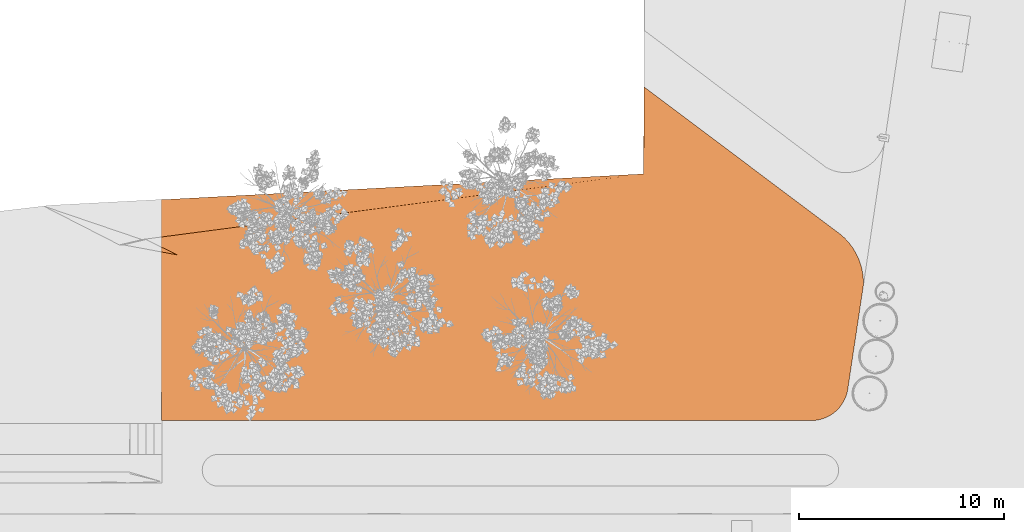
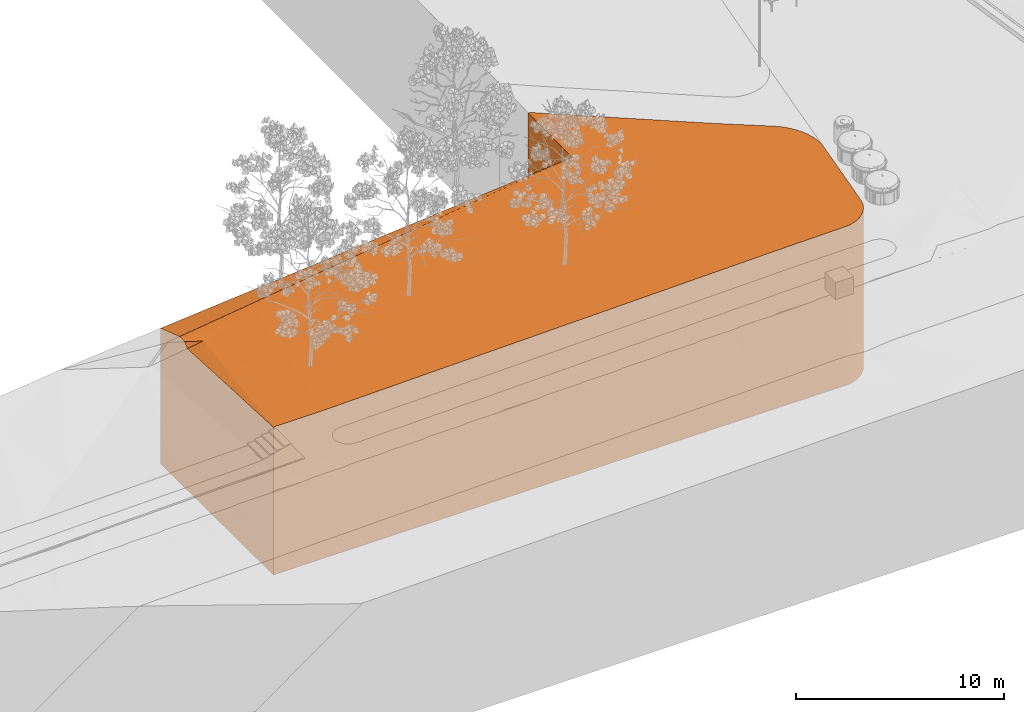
# One storey, part 211 of 246: 1 proxy.
"""IFC2X3 building model written with IfcOpenShell, lengths in millimetres."""

from ifc_helpers import new_model, entity, si_unit, converted_unit, derived_unit, money_unit, direction, frame, origin_with_axes, place, context, subcontext, project, spatial, faceted_brep, material, type_object, element, save


model = new_model("IFC2X3")

# Units and contexts
model_context = context("Model", 3, precision=0.01, world=origin_with_axes(), true_north=direction((0.0, 1.0)))
body_context = subcontext(model_context, "Body", "Model", "MODEL_VIEW")
ifc_project = project(units=[si_unit("LENGTHUNIT", "METRE", prefix="MILLI"), si_unit("AREAUNIT", "SQUARE_METRE"), si_unit("VOLUMEUNIT", "CUBIC_METRE"), converted_unit("PLANEANGLEUNIT", "DEGREE", entity("IfcPlaneAngleMeasure", 0.0174532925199), si_unit("PLANEANGLEUNIT", "RADIAN"), dimensions=[0, 0, 0, 0, 0, 0, 0]), si_unit("SOLIDANGLEUNIT", "STERADIAN"), money_unit("EUR"), converted_unit("TIMEUNIT", "Year", entity("IfcTimeMeasure", 31556926.0), si_unit("TIMEUNIT", "SECOND"), dimensions=[0, 0, 1, 0, 0, 0, 0]), si_unit("MASSUNIT", "GRAM", prefix="KILO"), si_unit("THERMODYNAMICTEMPERATUREUNIT", "DEGREE_CELSIUS"), si_unit("LUMINOUSINTENSITYUNIT", "LUMEN"), si_unit("ENERGYUNIT", "JOULE", prefix="MEGA"), derived_unit("THERMALCONDUCTANCEUNIT", [(si_unit("POWERUNIT", "WATT"), 1), (si_unit("LENGTHUNIT", "METRE"), -1), (si_unit("THERMODYNAMICTEMPERATUREUNIT", "KELVIN"), -1)]), derived_unit("SPECIFICHEATCAPACITYUNIT", [(si_unit("ENERGYUNIT", "JOULE"), 1), (si_unit("MASSUNIT", "GRAM", prefix="KILO"), -1), (si_unit("THERMODYNAMICTEMPERATUREUNIT", "KELVIN"), -1)]), derived_unit("MASSDENSITYUNIT", [(si_unit("MASSUNIT", "GRAM", prefix="KILO"), 1), (si_unit("VOLUMEUNIT", "CUBIC_METRE"), -1)])], contexts=[model_context])

# Site, building, storey
site_placement = place(None, origin_with_axes())
site = spatial("IfcSite", under=ifc_project, at=site_placement, Name="L.Koidula tn 11b", CompositionType="ELEMENT")
building_placement = place(site_placement, origin_with_axes())
building = spatial("IfcBuilding", under=site, at=building_placement, Name="Rakvere Riigigümnaasium", CompositionType="ELEMENT")
storey_placement = place(building_placement, origin_with_axes())
storey = spatial("IfcBuildingStorey", under=building, at=storey_placement, Name="1.korrus 0,00", CompositionType="ELEMENT", Elevation=0.0)

# Proxy
ifc_material = material(Name="Roheala")
building_element_proxy_type = type_object("IfcBuildingElementProxyType", Name="Roheala", PredefinedType="NOTDEFINED")
proxy_placement = place(storey_placement, frame((-27883.9800417, 5888.03187141, -10000.0), z_axis=(0.0, 0.0, 1.0), x_axis=(1.0, 0.0, 0.0)))
element("IfcBuildingElementProxy", 1, at=proxy_placement, inside=storey, type_object=building_element_proxy_type, material=ifc_material, Name="Roheala", context=body_context, shape_type="Brep", body=[
    faceted_brep([(34332.925298, 6864.29597413, 9300.39518964), (34335.2758112, 6739.08579392, 9302.70499763), (34336.236999, 6687.88399578, 9303.5502605), (34336.236999, 6687.88399578, 0.0), (34332.925298, 6864.29597413, 0.0), (34330.616608, 6894.65899928, 9299.79440302), (26982.5979275, 0.352399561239, 9252.08709945), (27232.6556542, 0.355669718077, 9257.93563239), (33863.0693961, 3499.51411071, 9350.0), (34332.854574, 6599.72733087, 9304.94713644), (33867.2854808, 3502.51735499, 9350.0), (34332.854574, 6599.72733087, 0.0), (35.574313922, 708.259423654, 0.0), (0.0, 10785.9368653, 0.0), (23598.9628378, 12050.3574597, 0.0), (23611.4911194, 16307.907403, 0.0), (33229.8101634, 9085.62633719, 0.0), (33292.8658351, 9033.03547806, 0.0), (33421.6845244, 8912.46226893, 0.0), (33543.4097426, 8784.73159639, 0.0), (33657.6444475, 8650.26009134, 0.0), (33764.0160291, 8509.48637187, 0.0), (33862.1775255, 8362.86961261, 0.0), (33951.8087543, 8210.88804695, 0.0), (34032.6173569, 8054.03740715, 0.0), (34104.3397527, 7892.82930742, 0.0), (34166.7419979, 7727.78957506, 0.0), (34219.6205495, 7559.45653537, 0.0), (34262.8029286, 7388.37925575, 0.0), (34296.1482833, 7215.11575472, 0.0), (34319.5478479, 7040.2311818, 0.0), (33572.1766925, 1539.29879872, 0.0), (33559.3621258, 1457.66829806, 0.0), (33528.3939652, 1326.16155004, 0.0), (33487.6848863, 1197.3367751, 0.0), (33437.4625508, 1071.91441363, 0.0), (33378.0078222, 950.595878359, 0.0), (33309.6531957, 834.059631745, 0.0), (33232.7809379, 722.957391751, 0.0), (33147.8209498, 617.91048717, 0.0), (33055.248362, 519.506382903, 0.0), (32955.5808781, 428.295394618, 0.0), (32849.3758789, 344.78761116, 0.0), (32737.227306, 269.450041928, 0.0), (32619.7623396, 202.704005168, 0.0), (32497.6378916, 144.922771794, 0.0), (32371.5369313, 96.4294779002, 0.0), (32242.1646664, 57.4953176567, 0.0), (32110.2445992, 28.3380266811, 0.0), (31976.5144802, 9.12066437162, 0.0), (31841.7221825, -0.0492979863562, 0.0), (31774.1718508, 0.415061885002, 0.0), (35.8068283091, 0.0, 0.0), (34319.5478479, 7040.2311818, 9297.03859377), (34327.0827913, 6941.13443131, 9298.95346894), (23598.962838, 12050.3574615, 8980.0), (26586.3633027, 0.347217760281, 9243.40702629), (77.1900470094, 0.000541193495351, 8693.1310645), (35.8068283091, 0.0, 8681.23902695), (31774.1718508, 0.415061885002, 9338.04511527), (29704.2685827, 0.387992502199, 9303.96773818), (24473.0754986, 0.319581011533, 9194.62747145), (24302.8834542, 0.317355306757, 9192.85571935), (18015.3803882, 0.235129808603, 9047.7262207), (18008.8838724, 0.235044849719, 9047.72622134), (11721.4902706, 0.152820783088, 8902.59928886), (11246.313563, 0.146606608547, 8893.45244506), (4971.70962512, 0.0645498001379, 8748.62120504), (4964.81566064, 0.0644596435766, 8748.62120545), (2873.30655149, 0.037107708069, 8700.34472883), (2767.83741654, 0.0357284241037, 8695.32610974), (87.7576559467, 0.000679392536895, 8693.13106239), (33866.6792933, 3498.48467771, 9350.05866043), (33862.0163708, 3467.46446963, 9350.45939971), (33572.1766925, 1539.29879872, 9368.99377147), (33866.1916894, 3495.2408805, 9350.10415368), (6.43100577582, 8964.12796191, 8585.36080865), (-5.13118436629e-08, 10785.9368673, 7973.85212687), (35.574313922, 708.259423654, 8651.81180806), (19.7416127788, 5193.42969286, 8461.33243607), (8.96904060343, 8245.14020056, 8311.83013278), (8.09981896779, 8491.37784519, 8570.0), (7.95556255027, 8532.24355655, 8570.0), (7.06411649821, 8784.77704992, 8591.37030704), (6.52059013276, 8938.7500374, 8582.11570857), (23611.4911197, 16307.907403, 9021.33150081), (30712.3991612, 10975.9202371, 9150.53247159), (33229.8101634, 9085.62633719, 9237.61678121), (23617.1840537, 16303.6326465, 9015.36410058), (23773.5651244, 16186.2079655, 9049.35887219), (23959.7495683, 16046.404287, 9047.17200526), (33292.8658351, 9033.03547806, 9239.89087659), (33421.6845244, 8912.46226893, 9244.76921929), (33543.4097426, 8784.73159639, 9249.62319047), (33657.6444475, 8650.26009134, 9254.43695749), (33764.0160291, 8509.48637187, 9259.19481885), (33862.1775255, 8362.86961261, 9263.88125538), (33951.8087543, 8210.88804695, 9268.48098091), (34032.6173569, 8054.03740715, 9272.97899209), (34104.3397527, 7892.82930742, 9277.36061734), (34166.7419979, 7727.78957506, 9281.61156471), (34219.6205495, 7559.45653537, 9285.71796849), (34262.8029286, 7388.37925575, 9289.66643445), (34296.1482833, 7215.11575472, 9293.44408351), (33559.3621258, 1457.66829806, 9369.75657428), (33528.3939652, 1326.16155004, 9370.57046765), (33487.6848863, 1197.3367751, 9370.95082686), (33437.4625508, 1071.91441363, 9370.89552477), (33378.0078222, 950.595878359, 9370.40487066), (33309.6531957, 834.059631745, 9369.48160847), (33232.7809379, 722.957391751, 9368.13090144), (33147.8209498, 617.91048717, 9366.3603033), (33055.248362, 519.506382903, 9364.17971592), (32955.5808781, 428.295394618, 9361.60133406), (32849.3758789, 344.78761116, 9358.63957706), (32737.227306, 269.450041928, 9355.31100826), (32619.7623396, 202.704005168, 9351.63424239), (32569.921939, 179.12281511, 9350.0), (32497.6378916, 144.922771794, 9349.02924452), (32371.5369313, 96.4294779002, 9347.264127), (32242.1646664, 57.4953176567, 9345.38386198), (32110.2445992, 28.3380266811, 9343.39896468), (31976.5144802, 9.12066437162, 9341.32053543), (31841.7221825, -0.0492979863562, 9339.16019767), (816.528603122, 8095.4341056, 8570.0), (18580.2949784, 8987.12503688, 8980.0), (18380.2949784, 8987.12503688, 8980.0), (4198.01170818, 8456.01870363, 8710.0), (3998.01170818, 8456.01870363, 8710.0), (1016.52860312, 8095.4341056, 8570.0)], [[[0, 1, 2, 3, 4]], [[1, 0, 5, 6, 7, 8]], [[9, 2, 1, 8, 10]], [[2, 9, 11, 3]], [[12, 13, 14, 15, 16, 17, 18, 19, 20, 21, 22, 23, 24, 25, 26, 27, 28, 29, 30, 4, 3, 11, 31, 32, 33, 34, 35, 36, 37, 38, 39, 40, 41, 42, 43, 44, 45, 46, 47, 48, 49, 50, 51, 52]], [[5, 0, 4, 30, 53, 54]], [[5, 54, 55, 56, 6]], [[57, 58, 52, 51, 59, 60, 7, 6, 56, 61, 62, 63, 64, 65, 66, 67, 68, 69, 70, 71]], [[7, 60, 8]], [[72, 10, 8]], [[73, 74, 31, 11, 9, 10, 72, 75]], [[76, 77, 13, 12, 78, 79, 80, 81, 82, 83, 84]], [[77, 55, 14, 13]], [[55, 85, 15, 14]], [[86, 87, 16, 15, 85, 88, 89, 90]], [[87, 91, 17, 16]], [[91, 92, 18, 17]], [[92, 93, 19, 18]], [[93, 94, 20, 19]], [[94, 95, 21, 20]], [[95, 96, 22, 21]], [[96, 97, 23, 22]], [[97, 98, 24, 23]], [[98, 99, 25, 24]], [[99, 100, 26, 25]], [[100, 101, 27, 26]], [[101, 102, 28, 27]], [[102, 103, 29, 28]], [[103, 53, 30, 29]], [[74, 104, 32, 31]], [[104, 105, 33, 32]], [[105, 106, 34, 33]], [[106, 107, 35, 34]], [[107, 108, 36, 35]], [[108, 109, 37, 36]], [[109, 110, 38, 37]], [[110, 111, 39, 38]], [[111, 112, 40, 39]], [[112, 113, 41, 40]], [[113, 114, 42, 41]], [[114, 115, 43, 42]], [[115, 116, 44, 43]], [[117, 118, 45, 44, 116]], [[118, 119, 46, 45]], [[119, 120, 47, 46]], [[120, 121, 48, 47]], [[121, 122, 49, 48]], [[122, 123, 50, 49]], [[123, 59, 51, 50]], [[58, 78, 12, 52]], [[54, 53, 103, 102, 101, 100, 99, 98, 97, 96, 95, 94, 93, 92, 91, 87, 86, 55]], [[61, 56, 55]], [[58, 57, 124, 79, 78]], [[118, 117, 8, 60, 59, 123, 122, 121, 120, 119]], [[62, 61, 55, 125]], [[63, 62, 125]], [[64, 63, 125, 126]], [[65, 64, 126]], [[66, 65, 126, 127]], [[67, 66, 127]], [[68, 67, 127, 128]], [[69, 68, 128]], [[70, 69, 128, 129]], [[71, 70, 129]], [[57, 71, 129, 124]], [[75, 72, 8]], [[74, 73, 8, 117, 116, 115, 114, 113, 112, 111, 110, 109, 108, 107, 106, 105, 104]], [[73, 75, 8]], [[77, 76, 55]], [[80, 79, 124]], [[81, 80, 124]], [[82, 81, 124, 129]], [[83, 82, 129, 128]], [[84, 83, 128, 55]], [[76, 84, 55]], [[88, 85, 55]], [[89, 88, 55]], [[90, 89, 55]], [[86, 90, 55]], [[125, 55, 126]], [[126, 55, 127]], [[127, 55, 128]]]),
])

save(model, "model.ifc")
